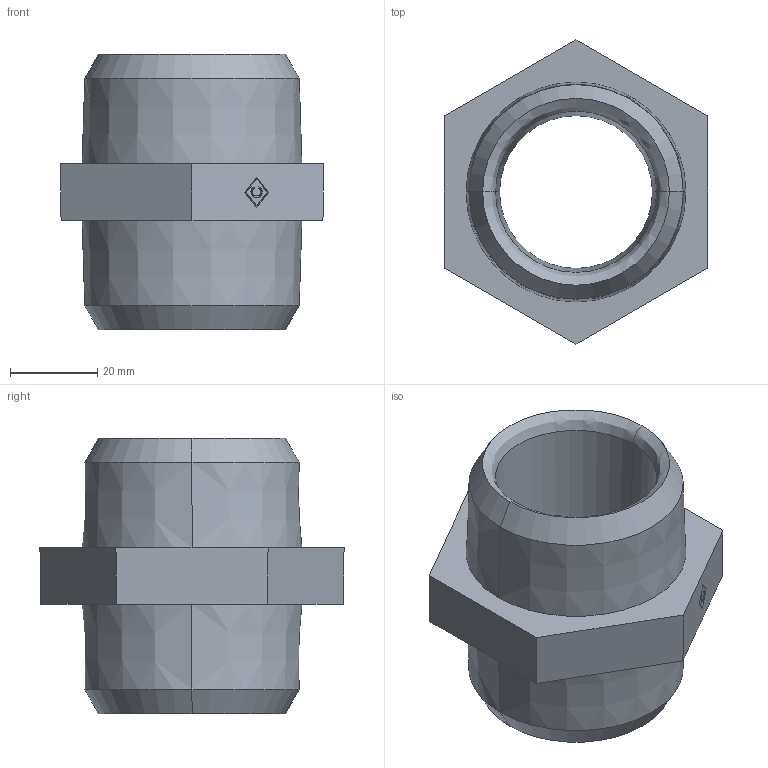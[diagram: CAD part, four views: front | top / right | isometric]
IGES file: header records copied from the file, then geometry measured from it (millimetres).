
Global section: file name: No Iges File Name specified; native system: AutoDesk Inventor R12.0; preprocessor: AutoDesk Inventor Iges Exporter R12.0; date: 20090914.145725; units: millimetre
Bounding box: 60.34 x 69.67 x 63 mm (x, y, z)
Volume: 69727 mm3; surface area: 20464.7 mm2
Topology: 1 solids, 1 shells, 45 faces, 106 edges, 66 vertices
Faces by surface type: plane 21, bspline 12, cone 8, revolution 4
